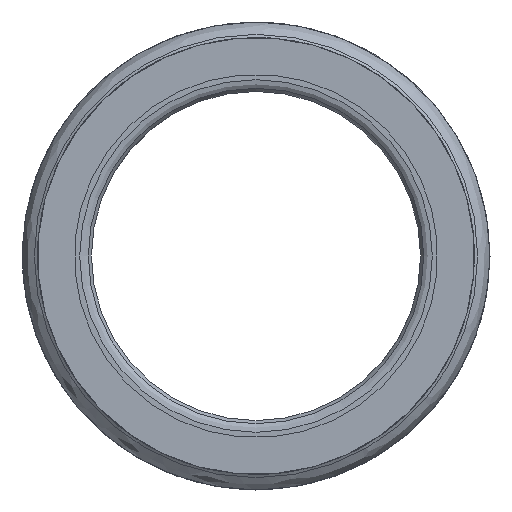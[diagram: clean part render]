
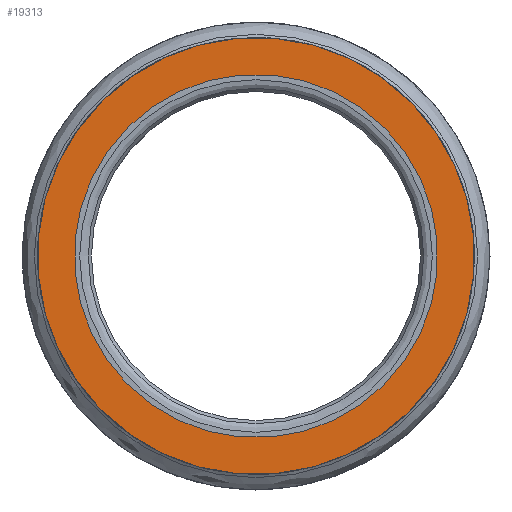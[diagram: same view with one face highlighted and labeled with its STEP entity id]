
A CAD part, front view. The second image highlights one B-rep face of the part: STEP entity #19313.
In plain terms, the highlighted planar face has unit normal (0, -1, 0) as drawn and (0, 1, 0) by its records, which use the part's own axes.
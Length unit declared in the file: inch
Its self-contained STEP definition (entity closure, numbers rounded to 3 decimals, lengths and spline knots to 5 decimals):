
#19251=CARTESIAN_POINT('',(-0.69,2.0,0.));
#19252=VERTEX_POINT('',#19251);
#19253=CARTESIAN_POINT('',(0.0,2.0,0.0));
#19254=DIRECTION('',(0.0,-1.0,0.0));
#19255=DIRECTION('',(1.0,0.0,0.0));
#19256=AXIS2_PLACEMENT_3D('',#19253,#19254,#19255);
#19257=CIRCLE('',#19256,0.69);
#19258=EDGE_CURVE('',#19252,#19252,#19257,.T.);
#19279=CARTESIAN_POINT('',(-0.83,2.0,0.));
#19280=VERTEX_POINT('',#19279);
#19281=CARTESIAN_POINT('',(0.0,2.0,0.0));
#19282=DIRECTION('',(0.0,-1.0,0.0));
#19283=DIRECTION('',(1.0,0.0,0.0));
#19284=AXIS2_PLACEMENT_3D('',#19281,#19282,#19283);
#19285=CIRCLE('',#19284,0.83);
#19286=EDGE_CURVE('',#19280,#19280,#19285,.T.);
#19302=CARTESIAN_POINT('',(0.0,2.0,0.0));
#19303=DIRECTION('',(0.0,-1.0,0.0));
#19304=DIRECTION('',(0.0,0.0,-1.0));
#19305=AXIS2_PLACEMENT_3D('',#19302,#19303,#19304);
#19306=PLANE('',#19305);
#19307=ORIENTED_EDGE('',*,*,#19286,.F.);
#19308=EDGE_LOOP('',(#19307));
#19309=FACE_OUTER_BOUND('',#19308,.T.);
#19310=ORIENTED_EDGE('',*,*,#19258,.T.);
#19311=EDGE_LOOP('',(#19310));
#19312=FACE_BOUND('',#19311,.T.);
#19313=ADVANCED_FACE('',(#19309,#19312),#19306,.F.);
